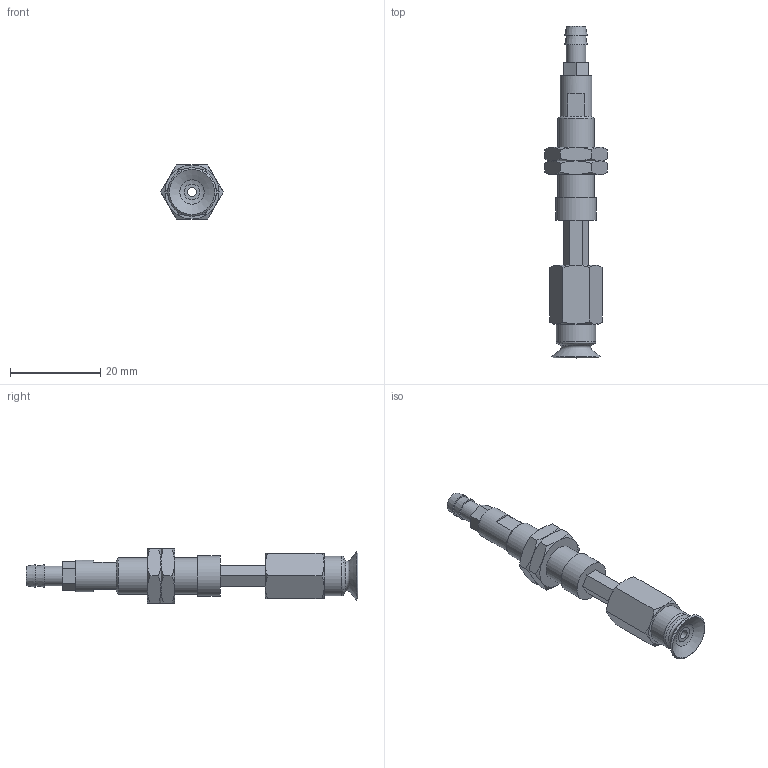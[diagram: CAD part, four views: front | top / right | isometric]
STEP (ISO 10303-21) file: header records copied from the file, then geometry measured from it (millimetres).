
FILE_DESCRIPTION(('STEP AP203'),'1');
FILE_NAME('-T.stp','2025-08-27T03:09:41',(' '),(' '),'Spatial InterOp 3D',' ',' ');
FILE_SCHEMA(('CONFIG_CONTROL_DESIGN'));
Length unit declared in the file: millimetre
Products named in the file (7): BNABPFTH-10A-10-※-T; ADAPTER; NAPATH-10A-10--M; Nut-10A-10-h; NAPFTH-10A-10-FBODY; BPFG-10A-※; T
Assembly tree (7 placements, depth 2):
  BNABPFTH-10A-10-※-T
    ADAPTER
    NAPATH-10A-10--M
    Nut-10A-10-h  x2
    NAPFTH-10A-10-FBODY
    BPFG-10A-※
    T
Bounding box: 13.86 x 73.5 x 12 mm (x, y, z)
Volume: 3668.4 mm3; surface area: 4533.8 mm2
Topology: 7 solids, 7 shells, 141 faces, 299 edges, 184 vertices
Faces by surface type: plane 66, cone 49, cylinder 17, torus 8, bspline 1
Full cylindrical faces by diameter (mm): 2 x3, 3 x1, 4 x2, 4.134 x1, 4.3 x1, 5 x1, 6 x2, 7 x1, 7.188 x2, 8 x1, 8.7 x1, 9 x1
Entity records: 3485 total; most frequent: CARTESIAN_POINT 795, DIRECTION 490, ORIENTED_EDGE 412, AXIS2_PLACEMENT_3D 207, EDGE_CURVE 206, EDGE_LOOP 178, VERTEX_POINT 148, FACE_OUTER_BOUND 143
